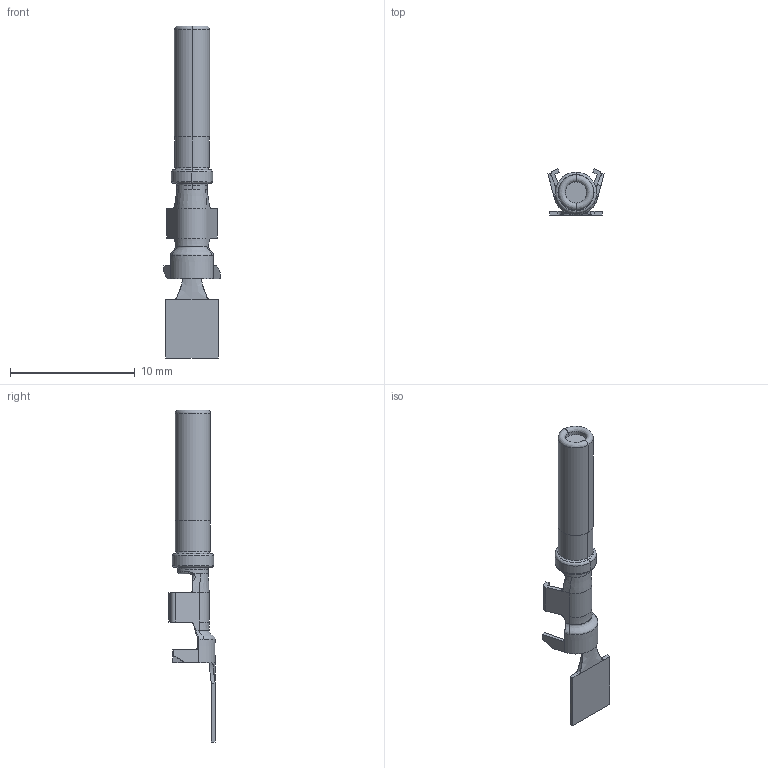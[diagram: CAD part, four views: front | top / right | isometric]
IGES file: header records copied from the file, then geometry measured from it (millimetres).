
Start section:  PTC IGES file: c-1062-16-0144-h-3d.igs
Global section: file name: c-1062-16-0144-h-3d.igs; native system: Creo Parametric by Parametric Technology Corporation; preprocessor: 2013050; author: workeradm; organization: Unknown; units: millimetre
Bounding box: 4.5 x 3.7 x 26.57 mm (x, y, z)
Surface area: 281.2 mm2 (no closed solid volume)
Topology: 0 solids, 0 shells, 110 faces, 544 edges, 544 vertices
Faces by surface type: bspline 73, revolution 37
